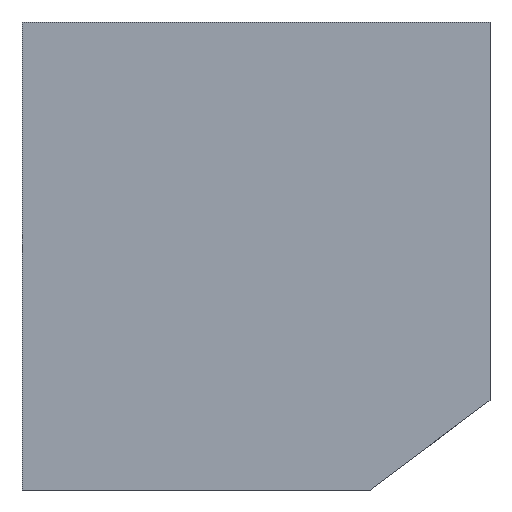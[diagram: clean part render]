
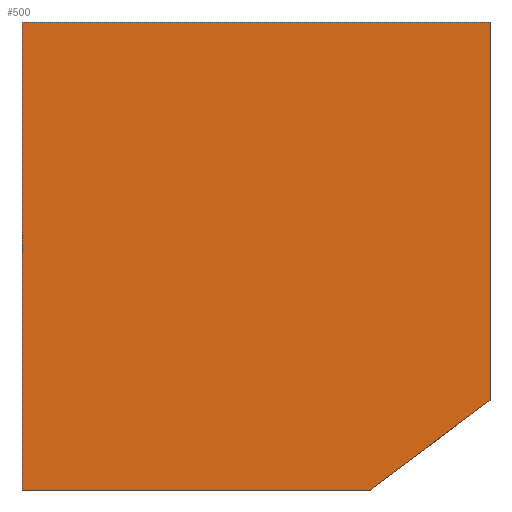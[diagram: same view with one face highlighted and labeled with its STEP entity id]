
A CAD part, left-side view. The second image highlights one B-rep face of the part: STEP entity #500.
In plain terms, the highlighted planar face has unit normal (-1, 0, 0).
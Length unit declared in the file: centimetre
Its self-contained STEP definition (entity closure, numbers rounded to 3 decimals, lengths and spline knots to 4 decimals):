
#16 = LINE ( 'NONE', #346, #520 ) ;
#27 = LINE ( 'NONE', #163, #50 ) ;
#41 = CARTESIAN_POINT ( 'NONE',  ( 0., 0., 1000. ) ) ;
#50 = VECTOR ( 'NONE', #406, 100. ) ;
#68 = LINE ( 'NONE', #526, #322 ) ;
#78 = ORIENTED_EDGE ( 'NONE', *, *, #612, .T. ) ;
#94 = CARTESIAN_POINT ( 'NONE',  ( 0., 0., 1000. ) ) ;
#112 = CARTESIAN_POINT ( 'NONE',  ( 0., 1000., 1000. ) ) ;
#142 = EDGE_CURVE ( 'NONE', #347, #155, #16, .T. ) ;
#144 = CARTESIAN_POINT ( 'NONE',  ( 0., 1000., 1000. ) ) ;
#148 = EDGE_CURVE ( 'NONE', #347, #172, #349, .T. ) ;
#155 = VERTEX_POINT ( 'NONE', #253 ) ;
#160 = VECTOR ( 'NONE', #610, 100. ) ;
#163 = CARTESIAN_POINT ( 'NONE',  ( 0., 255.9356, 0. ) ) ;
#171 = CARTESIAN_POINT ( 'NONE',  ( 0., 1000., 1000. ) ) ;
#172 = VERTEX_POINT ( 'NONE', #41 ) ;
#178 = VERTEX_POINT ( 'NONE', #201 ) ;
#201 = CARTESIAN_POINT ( 'NONE',  ( 0., 255.9356, 0. ) ) ;
#247 = DIRECTION ( 'NONE',  ( 0., 0., -1. ) ) ;
#253 = CARTESIAN_POINT ( 'NONE',  ( 0., 1000., 0. ) ) ;
#262 = DIRECTION ( 'NONE',  ( 0., -1., 0. ) ) ;
#284 = VERTEX_POINT ( 'NONE', #599 ) ;
#322 = VECTOR ( 'NONE', #262, 100. ) ;
#325 = EDGE_CURVE ( 'NONE', #284, #178, #27, .T. ) ;
#334 = PLANE ( 'NONE',  #432 ) ;
#346 = CARTESIAN_POINT ( 'NONE',  ( 0., 1000., 1000. ) ) ;
#347 = VERTEX_POINT ( 'NONE', #171 ) ;
#349 = LINE ( 'NONE', #112, #160 ) ;
#367 = EDGE_LOOP ( 'NONE', ( #78, #417, #577, #528, #389 ) ) ;
#389 = ORIENTED_EDGE ( 'NONE', *, *, #142, .T. ) ;
#406 = DIRECTION ( 'NONE',  ( 0., 0.8, -0.6 ) ) ;
#417 = ORIENTED_EDGE ( 'NONE', *, *, #325, .F. ) ;
#432 = AXIS2_PLACEMENT_3D ( 'NONE', #144, #517, #571 ) ;
#476 = EDGE_CURVE ( 'NONE', #172, #284, #477, .T. ) ;
#477 = LINE ( 'NONE', #94, #510 ) ;
#500 = ADVANCED_FACE ( 'NONE', ( #569 ), #334, .F. ) ;
#510 = VECTOR ( 'NONE', #247, 100. ) ;
#517 = DIRECTION ( 'NONE',  ( 1., 0., 0. ) ) ;
#520 = VECTOR ( 'NONE', #534, 100. ) ;
#526 = CARTESIAN_POINT ( 'NONE',  ( 0., 1000., 0. ) ) ;
#528 = ORIENTED_EDGE ( 'NONE', *, *, #148, .F. ) ;
#534 = DIRECTION ( 'NONE',  ( 0., 0., -1. ) ) ;
#569 = FACE_OUTER_BOUND ( 'NONE', #367, .T. ) ;
#571 = DIRECTION ( 'NONE',  ( 0., 0., -1. ) ) ;
#577 = ORIENTED_EDGE ( 'NONE', *, *, #476, .F. ) ;
#599 = CARTESIAN_POINT ( 'NONE',  ( 0., 0., 191.7058 ) ) ;
#610 = DIRECTION ( 'NONE',  ( 0., -1., 0. ) ) ;
#612 = EDGE_CURVE ( 'NONE', #155, #178, #68, .T. ) ;
